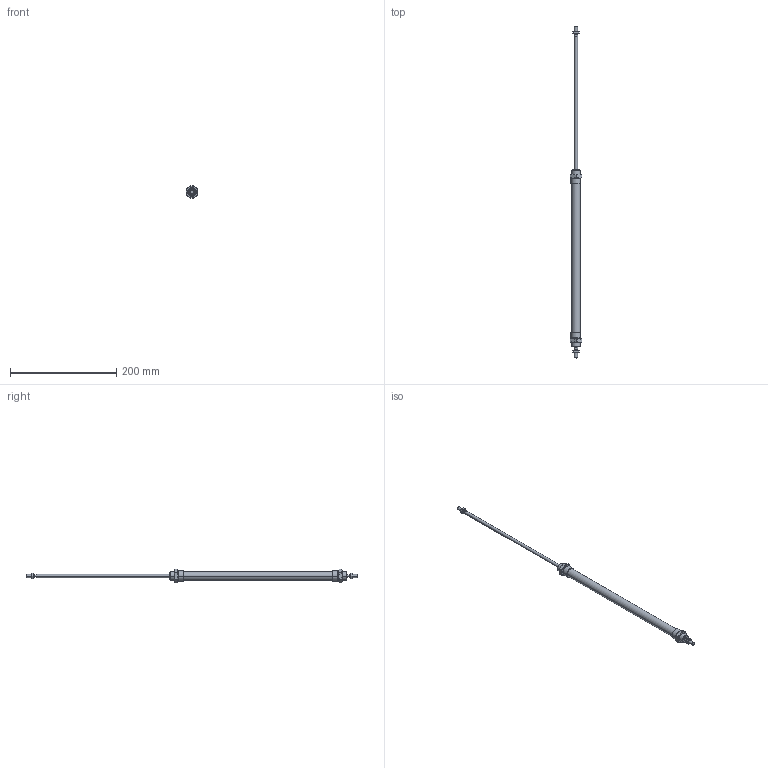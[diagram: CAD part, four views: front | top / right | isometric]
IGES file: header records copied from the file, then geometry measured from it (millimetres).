
Global section: file name: No Iges File Name specified; native system: AutoDesk Inventor R6.0; preprocessor: AutoDesk Inventor Iges Exporter R6.0; author: No Author specified; organization: No Organization specified; date: 20030403.072109; units: millimetre
Bounding box: 22 x 626 x 25.4 mm (x, y, z)
Volume: 80064.8 mm3; surface area: 38801.2 mm2
Topology: 6 solids, 6 shells, 180 faces, 388 edges, 228 vertices
Faces by surface type: cone 68, plane 56, bspline 30, cylinder 20, revolution 6
